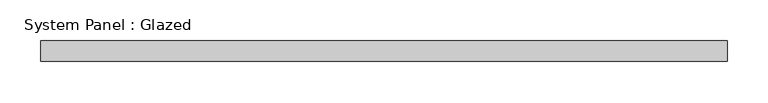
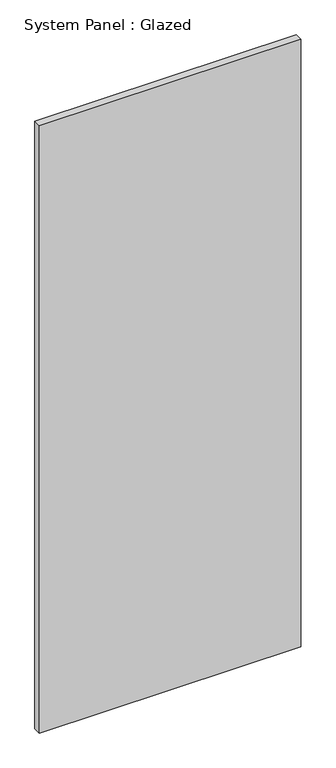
"""IFC4 building model written with IfcOpenShell, lengths in millimetres: plate geometry, System Panel : Glazed."""

from ifc_helpers import new_model, si_unit, origin, origin_with_axes, place, context, project, spatial, polyline, outline, extrude, source, transform, mapped, element, save


def system_panel_glazed_4aef0c34(model_context):
    return source(origin(), model_context, "Body", "SweptSolid", [
        extrude(outline(polyline([(419.3790789, 24.5), (-419.3790789, 24.5), (-419.3790789, 49.5), (419.3790789, 49.5), (419.3790789, 24.5)])), origin_with_axes(), (0.0, 0.0, 1.0), 2060.0),
    ])


if __name__ == "__main__":
    model = new_model("IFC4")
    model_context = context("Model", 3, world=origin())
    ifc_project = project(units=[si_unit("LENGTHUNIT", "METRE", prefix="MILLI")], contexts=[model_context])
    site = spatial("IfcSite", under=ifc_project)
    building = spatial("IfcBuilding", under=site)
    placement = place(None, origin())
    system_panel_glazed_shape = system_panel_glazed_4aef0c34(model_context)
    element("IfcPlate", 1, ObjectType="System Panel : Glazed", at=placement, inside=building, context=model_context, shape_type="MappedRepresentation", body=[
        mapped(system_panel_glazed_shape, transform((0.0, 0.0, 0.0), x_axis=(1.0, 0.0, 0.0), y_axis=(0.0, 1.0, 0.0), z_axis=(0.0, 0.0, 1.0))),
    ])
    save(model, "model.ifc")
